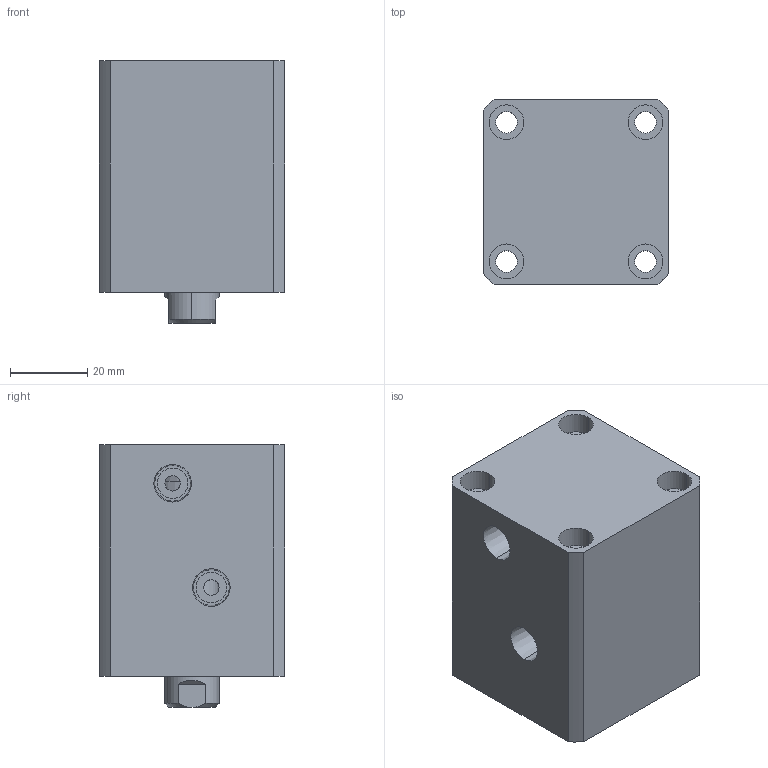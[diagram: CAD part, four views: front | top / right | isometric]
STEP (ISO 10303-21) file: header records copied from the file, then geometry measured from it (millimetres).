
FILE_DESCRIPTION (( 'STEP AP214' ), '1' );
FILE_NAME ('chtb-sd25x15n_asm.STEP', '2018-05-22T11:08:44', ( 'Windows' ), ( 'Microsoft' ), 'SwSTEP 2.0', 'SolidWorks 2015', '' );
FILE_SCHEMA (( 'AUTOMOTIVE_DESIGN' ));
Length unit declared in the file: millimetre
Products named in the file (4): CHTB-SD25X15NHSG; CHTB-SD25X15NBT; CHTB-25QG; chtb-sd25x15n_asm
Assembly tree (3 placements, depth 2):
  chtb-sd25x15n_asm
    CHTB-25QG
    CHTB-SD25X15NBT
    CHTB-SD25X15NHSG
Bounding box: 48 x 48 x 68 mm (x, y, z)
Volume: 122086.4 mm3; surface area: 35427 mm2
Topology: 3 solids, 3 shells, 144 faces, 377 edges, 257 vertices
Faces by surface type: cylinder 85, plane 36, cone 13, bspline 10
Entity records: 7940 total; most frequent: CARTESIAN_POINT 4299, ORIENTED_EDGE 742, DIRECTION 671, EDGE_CURVE 371, AXIS2_PLACEMENT_3D 278, VERTEX_POINT 257, EDGE_LOOP 182, ADVANCED_FACE 144
